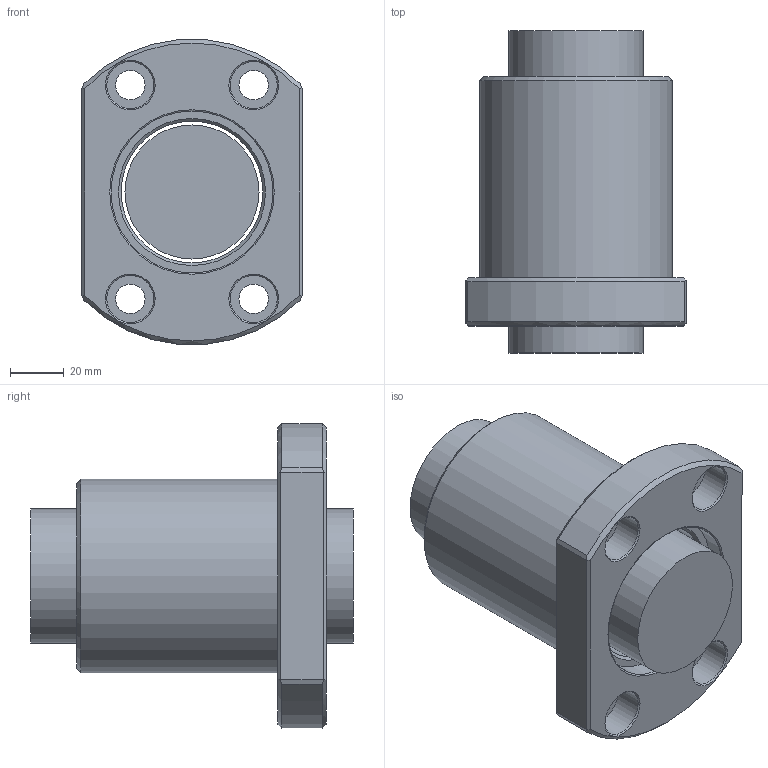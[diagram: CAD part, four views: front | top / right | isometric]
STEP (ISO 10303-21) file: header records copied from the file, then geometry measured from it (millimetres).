
FILE_DESCRIPTION(/* description */ (''),/* implementation_level */ '2;1');
FILE_NAME(/* name */ '5010T4D.prt.step',/* time_stamp */ '2008-12-05T09:37:14+08:00',/* author */ (''),/* organization */ (''),/* preprocessor_version */ 'ST-DEVELOPER v11',/* originating_system */ 'SIEMENS UGS NX 6.0',/* authorisation */ '');
FILE_SCHEMA (('AUTOMOTIVE_DESIGN { 1 0 10303 214 1 1 1 1 }'));
Length unit declared in the file: millimetre
Products named in the file (1): 5010T4D
Bounding box: 82 x 120 x 113.57 mm (x, y, z)
Volume: 465182.3 mm3; surface area: 75704.3 mm2
Topology: 2 solids, 2 shells, 53 faces, 121 edges, 79 vertices
Faces by surface type: plane 21, cylinder 15, cone 15, torus 2
Full cylindrical faces by diameter (mm): 11 x4, 17.5 x4, 49.95 x1, 52.8 x1, 60.3 x2, 72 x1
Entity records: 1366 total; most frequent: CARTESIAN_POINT 260, DIRECTION 226, ORIENTED_EDGE 174, AXIS2_PLACEMENT_3D 101, EDGE_LOOP 96, EDGE_CURVE 87, FACE_BOUND 78, VERTEX_POINT 71
